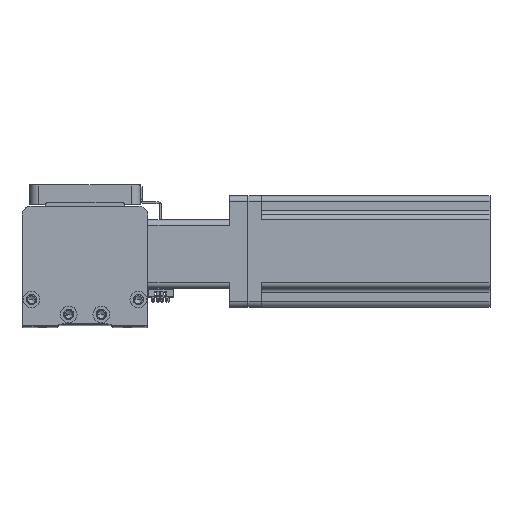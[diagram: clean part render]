
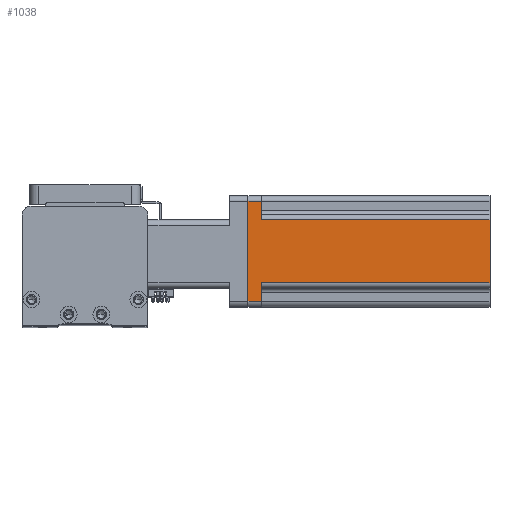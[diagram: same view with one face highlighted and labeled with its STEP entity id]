
A CAD part, top view. The second image highlights one B-rep face of the part: STEP entity #1038.
In plain terms, the highlighted planar face has unit normal (0, 0, 1) as drawn and (1, 0, 0) by its records, which use the part's own axes.
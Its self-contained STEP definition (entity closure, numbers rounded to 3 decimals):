
#607 = EDGE_CURVE ( 'NONE', #12777, #21646, #7663, .T. ) ;
#611 = EDGE_CURVE ( 'NONE', #21646, #31197, #39403, .T. ) ;
#722 = CARTESIAN_POINT ( 'NONE',  ( 30., 27., 0. ) ) ;
#827 = EDGE_CURVE ( 'NONE', #31197, #33778, #3041, .T. ) ;
#901 = EDGE_CURVE ( 'NONE', #11927, #41226, #19508, .T. ) ;
#1038 = ADVANCED_FACE ( 'NONE', ( #10567 ), #2270, .F. ) ;
#1080 = EDGE_CURVE ( 'NONE', #16945, #41226, #22453, .T. ) ;
#1206 = EDGE_CURVE ( 'NONE', #16945, #31699, #13508, .T. ) ;
#2270 = PLANE ( 'NONE',  #23966 ) ;
#2515 = CARTESIAN_POINT ( 'NONE',  ( 30., -30., 0. ) ) ;
#3041 = LINE ( 'NONE', #3692, #35906 ) ;
#3692 = CARTESIAN_POINT ( 'NONE',  ( 30., -27., 130.7 ) ) ;
#4978 = DIRECTION ( 'NONE',  ( 0., 0., 1. ) ) ;
#5676 = DIRECTION ( 'NONE',  ( -1., 0., 0. ) ) ;
#6121 = LINE ( 'NONE', #12589, #13593 ) ;
#6614 = ORIENTED_EDGE ( 'NONE', *, *, #1080, .F. ) ;
#6624 = VECTOR ( 'NONE', #21739, 1000. ) ;
#7282 = LINE ( 'NONE', #2515, #15719 ) ;
#7663 = LINE ( 'NONE', #18549, #6624 ) ;
#8021 = CARTESIAN_POINT ( 'NONE',  ( 30., -17., 130.7 ) ) ;
#10102 = VECTOR ( 'NONE', #4978, 1000. ) ;
#10217 = DIRECTION ( 'NONE',  ( 0., 0., -1. ) ) ;
#10567 = FACE_OUTER_BOUND ( 'NONE', #22720, .T. ) ;
#11927 = VERTEX_POINT ( 'NONE', #722 ) ;
#12589 = CARTESIAN_POINT ( 'NONE',  ( 30., -30., 130.7 ) ) ;
#12777 = VERTEX_POINT ( 'NONE', #8021 ) ;
#13052 = VECTOR ( 'NONE', #34461, 1000. ) ;
#13508 = LINE ( 'NONE', #32084, #29424 ) ;
#13593 = VECTOR ( 'NONE', #25483, 1000. ) ;
#14101 = VECTOR ( 'NONE', #28120, 1000. ) ;
#14469 = CARTESIAN_POINT ( 'NONE',  ( 30., 27., 130.7 ) ) ;
#15370 = CARTESIAN_POINT ( 'NONE',  ( 30., 27., 7.5 ) ) ;
#15719 = VECTOR ( 'NONE', #37452, 1000. ) ;
#16945 = VERTEX_POINT ( 'NONE', #32412 ) ;
#18141 = ORIENTED_EDGE ( 'NONE', *, *, #40348, .F. ) ;
#18549 = CARTESIAN_POINT ( 'NONE',  ( 30., -17., 7.5 ) ) ;
#19508 = LINE ( 'NONE', #14469, #10102 ) ;
#21646 = VERTEX_POINT ( 'NONE', #31942 ) ;
#21739 = DIRECTION ( 'NONE',  ( 0., 0., -1. ) ) ;
#22115 = ORIENTED_EDGE ( 'NONE', *, *, #901, .T. ) ;
#22453 = LINE ( 'NONE', #40784, #13052 ) ;
#22720 = EDGE_LOOP ( 'NONE', ( #18141, #24791, #40789, #35181, #32611, #22115, #6614, #32853 ) ) ;
#23966 = AXIS2_PLACEMENT_3D ( 'NONE', #24727, #5676, #27932 ) ;
#24727 = CARTESIAN_POINT ( 'NONE',  ( 30., -30., 130.7 ) ) ;
#24791 = ORIENTED_EDGE ( 'NONE', *, *, #607, .T. ) ;
#25212 = CARTESIAN_POINT ( 'NONE',  ( 30., 17., 130.7 ) ) ;
#25483 = DIRECTION ( 'NONE',  ( 0., 1., 0. ) ) ;
#27932 = DIRECTION ( 'NONE',  ( 0., 0., 1. ) ) ;
#28120 = DIRECTION ( 'NONE',  ( 0., -1., 0. ) ) ;
#28897 = DIRECTION ( 'NONE',  ( 0., 0., 1. ) ) ;
#29424 = VECTOR ( 'NONE', #28897, 1000. ) ;
#31197 = VERTEX_POINT ( 'NONE', #37994 ) ;
#31699 = VERTEX_POINT ( 'NONE', #25212 ) ;
#31942 = CARTESIAN_POINT ( 'NONE',  ( 30., -17., 7.5 ) ) ;
#32084 = CARTESIAN_POINT ( 'NONE',  ( 30., 17., 130.7 ) ) ;
#32412 = CARTESIAN_POINT ( 'NONE',  ( 30., 17., 7.5 ) ) ;
#32611 = ORIENTED_EDGE ( 'NONE', *, *, #38869, .T. ) ;
#32853 = ORIENTED_EDGE ( 'NONE', *, *, #1206, .T. ) ;
#33778 = VERTEX_POINT ( 'NONE', #35786 ) ;
#34461 = DIRECTION ( 'NONE',  ( 0., 1., 0. ) ) ;
#35181 = ORIENTED_EDGE ( 'NONE', *, *, #827, .T. ) ;
#35786 = CARTESIAN_POINT ( 'NONE',  ( 30., -27., 0. ) ) ;
#35906 = VECTOR ( 'NONE', #10217, 1000. ) ;
#37452 = DIRECTION ( 'NONE',  ( 0., 1., 0. ) ) ;
#37994 = CARTESIAN_POINT ( 'NONE',  ( 30., -27., 7.5 ) ) ;
#38869 = EDGE_CURVE ( 'NONE', #33778, #11927, #7282, .T. ) ;
#39403 = LINE ( 'NONE', #40720, #14101 ) ;
#40348 = EDGE_CURVE ( 'NONE', #12777, #31699, #6121, .T. ) ;
#40720 = CARTESIAN_POINT ( 'NONE',  ( 30., -30., 7.5 ) ) ;
#40784 = CARTESIAN_POINT ( 'NONE',  ( 30., 30., 7.5 ) ) ;
#40789 = ORIENTED_EDGE ( 'NONE', *, *, #611, .T. ) ;
#41226 = VERTEX_POINT ( 'NONE', #15370 ) ;
